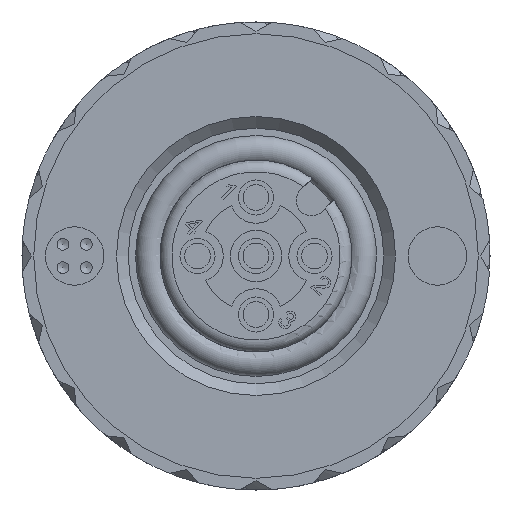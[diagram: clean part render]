
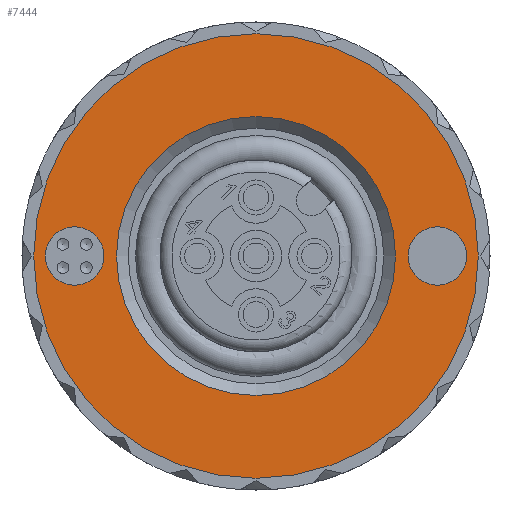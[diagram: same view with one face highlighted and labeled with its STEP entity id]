
A CAD part, front view. The second image highlights one B-rep face of the part: STEP entity #7444.
In plain terms, the highlighted planar face has unit normal (0, -1, 0).
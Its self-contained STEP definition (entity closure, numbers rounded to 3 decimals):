
#1931=FACE_BOUND('',#2673,.T.);
#1932=FACE_BOUND('',#2674,.T.);
#1933=FACE_BOUND('',#2675,.T.);
#2255=FACE_OUTER_BOUND('',#2672,.T.);
#2672=EDGE_LOOP('',(#5757));
#2673=EDGE_LOOP('',(#5758));
#2674=EDGE_LOOP('',(#5759));
#2675=EDGE_LOOP('',(#5760));
#3068=CIRCLE('',#7939,1.25);
#3070=CIRCLE('',#7943,1.25);
#3084=CIRCLE('',#7993,5.96);
#3085=CIRCLE('',#7995,9.5);
#3465=VERTEX_POINT('',#11055);
#3467=VERTEX_POINT('',#11061);
#3499=VERTEX_POINT('',#11195);
#3500=VERTEX_POINT('',#11198);
#4286=EDGE_CURVE('',#3465,#3465,#3068,.T.);
#4288=EDGE_CURVE('',#3467,#3467,#3070,.T.);
#4354=EDGE_CURVE('',#3499,#3499,#3084,.T.);
#4355=EDGE_CURVE('',#3500,#3500,#3085,.T.);
#5757=ORIENTED_EDGE('',*,*,#4355,.F.);
#5758=ORIENTED_EDGE('',*,*,#4286,.T.);
#5759=ORIENTED_EDGE('',*,*,#4288,.T.);
#5760=ORIENTED_EDGE('',*,*,#4354,.F.);
#7136=PLANE('',#7994);
#7444=ADVANCED_FACE('',(#2255,#1931,#1932,#1933),#7136,.T.);
#7939=AXIS2_PLACEMENT_3D('',#11056,#9023,#9024);
#7943=AXIS2_PLACEMENT_3D('',#11062,#9031,#9032);
#7993=AXIS2_PLACEMENT_3D('',#11196,#9183,#9184);
#7994=AXIS2_PLACEMENT_3D('',#11197,#9185,#9186);
#7995=AXIS2_PLACEMENT_3D('',#11199,#9187,#9188);
#9023=DIRECTION('center_axis',(0.,1.,0.));
#9024=DIRECTION('ref_axis',(1.,0.,0.));
#9031=DIRECTION('center_axis',(0.,1.,0.));
#9032=DIRECTION('ref_axis',(1.,0.,0.));
#9183=DIRECTION('center_axis',(0.,-1.,0.));
#9184=DIRECTION('ref_axis',(-1.,0.,0.));
#9185=DIRECTION('center_axis',(0.,-1.,0.));
#9186=DIRECTION('ref_axis',(0.,0.,1.));
#9187=DIRECTION('center_axis',(0.,1.,0.));
#9188=DIRECTION('ref_axis',(1.,0.,0.));
#11055=CARTESIAN_POINT('',(-9.,-14.6,0.));
#11056=CARTESIAN_POINT('Origin',(-7.75,-14.6,0.));
#11061=CARTESIAN_POINT('',(6.5,-14.6,0.));
#11062=CARTESIAN_POINT('Origin',(7.75,-14.6,0.));
#11195=CARTESIAN_POINT('',(5.96,-14.6,0.));
#11196=CARTESIAN_POINT('Origin',(0.,-14.6,0.));
#11197=CARTESIAN_POINT('Origin',(7.48,-14.6,0.));
#11198=CARTESIAN_POINT('',(9.5,-14.6,0.));
#11199=CARTESIAN_POINT('Origin',(0.,-14.6,0.));
